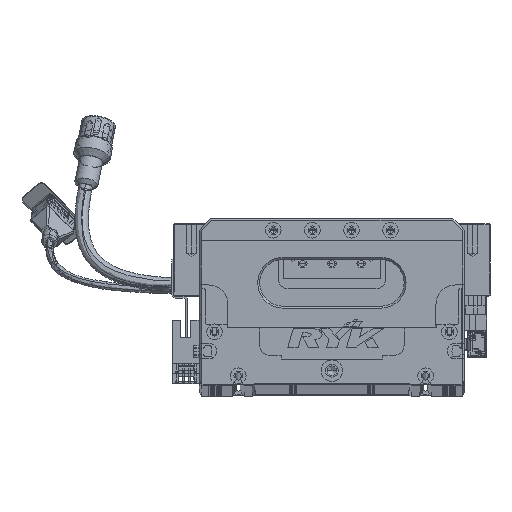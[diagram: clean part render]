
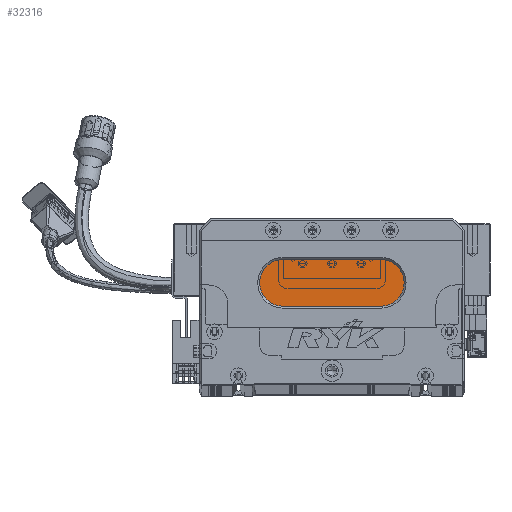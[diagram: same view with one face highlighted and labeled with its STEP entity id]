
A CAD part, top view. The second image highlights one B-rep face of the part: STEP entity #32316.
In plain terms, the highlighted planar face has unit normal (0, 0, 1) as drawn and (0, 0, -1) by its records, which use the part's own axes.
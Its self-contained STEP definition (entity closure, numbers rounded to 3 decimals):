
#4219 = AXIS2_PLACEMENT_3D ( 'NONE', #120434, #88518, #131303 ) ;
#6882 = DIRECTION ( 'NONE',  ( -1., 0., 0. ) ) ;
#7922 = CARTESIAN_POINT ( 'NONE',  ( 31., 52., 13. ) ) ;
#8615 = CIRCLE ( 'NONE', #4219, 12. ) ;
#15215 = DIRECTION ( 'NONE',  ( 0., 0., -1. ) ) ;
#16326 = EDGE_LOOP ( 'NONE', ( #17754, #61248, #67818, #68089, #110794 ) ) ;
#17754 = ORIENTED_EDGE ( 'NONE', *, *, #23642, .T. ) ;
#18499 = DIRECTION ( 'NONE',  ( 0., 0., -1. ) ) ;
#23642 = EDGE_CURVE ( 'NONE', #84749, #128743, #124393, .T. ) ;
#24181 = DIRECTION ( 'NONE',  ( 1., 0., 0. ) ) ;
#24775 = LINE ( 'NONE', #135843, #119920 ) ;
#32316 = ADVANCED_FACE ( 'NONE', ( #104472 ), #118004, .T. ) ;
#38243 = LINE ( 'NONE', #134952, #63095 ) ;
#40639 = CARTESIAN_POINT ( 'NONE',  ( 93., 52., 13. ) ) ;
#50694 = DIRECTION ( 'NONE',  ( 0., 0., -1. ) ) ;
#52959 = DIRECTION ( 'NONE',  ( -1., 0., 0. ) ) ;
#56146 = AXIS2_PLACEMENT_3D ( 'NONE', #137675, #15215, #93478 ) ;
#60842 = EDGE_CURVE ( 'NONE', #134515, #108665, #8615, .T. ) ;
#61248 = ORIENTED_EDGE ( 'NONE', *, *, #124056, .T. ) ;
#63095 = VECTOR ( 'NONE', #124109, 1000. ) ;
#67818 = ORIENTED_EDGE ( 'NONE', *, *, #60842, .T. ) ;
#68089 = ORIENTED_EDGE ( 'NONE', *, *, #108846, .T. ) ;
#71129 = VERTEX_POINT ( 'NONE', #131662 ) ;
#84189 = CARTESIAN_POINT ( 'NONE',  ( 93., 52., 13. ) ) ;
#84749 = VERTEX_POINT ( 'NONE', #105303 ) ;
#88518 = DIRECTION ( 'NONE',  ( 0., 0., -1. ) ) ;
#89257 = CIRCLE ( 'NONE', #56146, 12. ) ;
#89682 = AXIS2_PLACEMENT_3D ( 'NONE', #40639, #18499, #52959 ) ;
#93478 = DIRECTION ( 'NONE',  ( -1., 0., 0. ) ) ;
#104472 = FACE_OUTER_BOUND ( 'NONE', #16326, .T. ) ;
#105303 = CARTESIAN_POINT ( 'NONE',  ( 93., 64., 13. ) ) ;
#108665 = VERTEX_POINT ( 'NONE', #7922 ) ;
#108846 = EDGE_CURVE ( 'NONE', #108665, #71129, #89257, .T. ) ;
#110794 = ORIENTED_EDGE ( 'NONE', *, *, #142348, .T. ) ;
#118004 = PLANE ( 'NONE',  #126828 ) ;
#119920 = VECTOR ( 'NONE', #24181, 1000. ) ;
#120434 = CARTESIAN_POINT ( 'NONE',  ( 43., 52., 13. ) ) ;
#124056 = EDGE_CURVE ( 'NONE', #128743, #134515, #38243, .T. ) ;
#124109 = DIRECTION ( 'NONE',  ( -1., 0., 0. ) ) ;
#124393 = CIRCLE ( 'NONE', #89682, 12. ) ;
#126828 = AXIS2_PLACEMENT_3D ( 'NONE', #84189, #50694, #6882 ) ;
#128743 = VERTEX_POINT ( 'NONE', #136937 ) ;
#131303 = DIRECTION ( 'NONE',  ( -1., 0., 0. ) ) ;
#131662 = CARTESIAN_POINT ( 'NONE',  ( 43., 64., 13. ) ) ;
#134515 = VERTEX_POINT ( 'NONE', #135969 ) ;
#134952 = CARTESIAN_POINT ( 'NONE',  ( 93., 40., 13. ) ) ;
#135843 = CARTESIAN_POINT ( 'NONE',  ( 93., 64., 13. ) ) ;
#135969 = CARTESIAN_POINT ( 'NONE',  ( 43., 40., 13. ) ) ;
#136937 = CARTESIAN_POINT ( 'NONE',  ( 93., 40., 13. ) ) ;
#137675 = CARTESIAN_POINT ( 'NONE',  ( 43., 52., 13. ) ) ;
#142348 = EDGE_CURVE ( 'NONE', #71129, #84749, #24775, .T. ) ;
